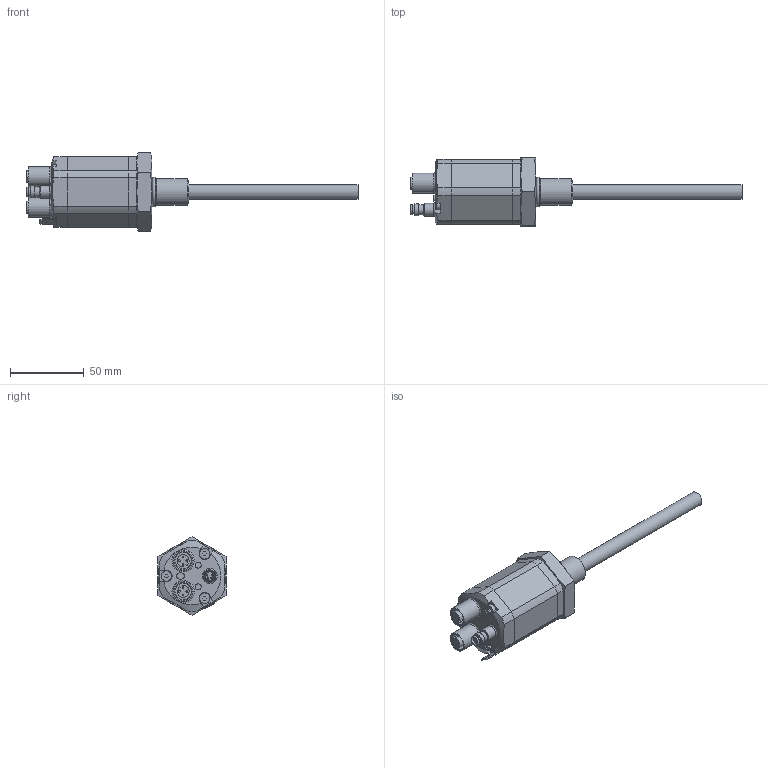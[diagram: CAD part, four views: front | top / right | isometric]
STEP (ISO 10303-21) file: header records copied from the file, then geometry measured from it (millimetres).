
FILE_DESCRIPTION( ( 'STEP AP203' ), '1' );
FILE_NAME( 'p:/temp/worker_28/temp/exporttempdir_3512_253_1DIHG/format_0/RH5 M A 0025M 01 D56 1 U301_(M_A_M_S_25_1_D56_U301__-_____-).stp', '2021-08-26T12:02:06', ( 'License CC BY-ND 4.0' ), ( 'CADENAS' ), ' ', 'PARTsolutions', ' ' );
FILE_SCHEMA( ( 'CONFIG_CONTROL_DESIGN' ) );
Length unit declared in the file: millimetre
Products named in the file (3): RH5 M A 0025M  01 D56 1 U301_(M_A_M_S_25_1_D56_U301__-_____-); _RH5 Pw_(M_D56)_EIP; _RHV STAB4_(A_25_M)_STAB
Assembly tree (2 placements, depth 2):
  RH5 M A 0025M  01 D56 1 U301_(M_A_M_S_25_1_D56_U301__-_____-)
    _RH5 Pw_(M_D56)_EIP
    _RHV STAB4_(A_25_M)_STAB
Bounding box: 224.5 x 46 x 53.12 mm (x, y, z)
Volume: 133295.8 mm3; surface area: 24691.7 mm2
Topology: 2 solids, 2 shells, 231 faces, 527 edges, 335 vertices
Faces by surface type: plane 131, cylinder 67, cone 24, torus 5, bspline 4
Full cylindrical faces by diameter (mm): 1 x4, 1.15 x8, 1.7 x1, 4.1 x2, 5.7 x1, 6.35 x1, 6.9 x2, 7 x3, 8 x1, 8.5 x1, 10 x1, 10.2 x1, 11.1 x2, 13.5 x2, 16.16 x2, 18 x1
Entity records: 6501 total; most frequent: CARTESIAN_POINT 1329, DIRECTION 1077, ORIENTED_EDGE 946, EDGE_CURVE 473, AXIS2_PLACEMENT_3D 413, VERTEX_POINT 333, EDGE_LOOP 319, FACE_OUTER_BOUND 273
